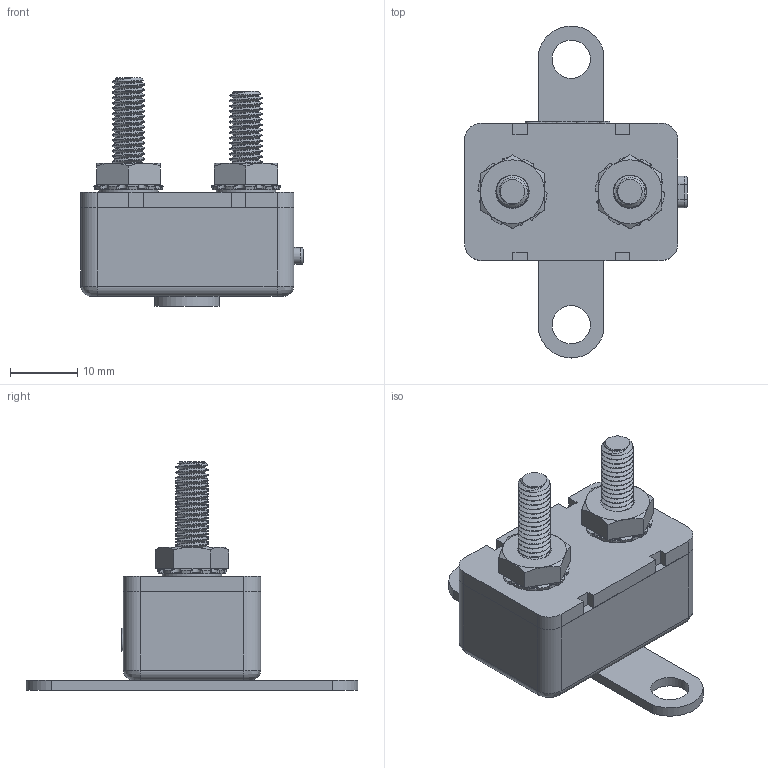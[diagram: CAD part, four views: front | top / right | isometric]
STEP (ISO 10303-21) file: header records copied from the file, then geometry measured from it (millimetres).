
FILE_DESCRIPTION(/* description */ (''),/* implementation_level */ '2;1');
FILE_NAME(/* name */ 'C:\Users\Hani\Desktop\work\MRCB-24-H\MRCB-24-H.stp',/* time_stamp */ '2021-08-06T14:12:35-07:00',/* author */ ('Hani'),/* organization */ (''),/* preprocessor_version */ 'ST-DEVELOPER v17',/* originating_system */ 'Autodesk Inventor 2019',/* authorisation */ '');
FILE_SCHEMA (('AUTOMOTIVE_DESIGN { 1 0 10303 214 3 1 1 }'));
Length unit declared in the file: inch
Products named in the file (4): ACBP-V; ACBP-V_1; THREADED ROD; HEX NUT WITH TOOTH WASHER
Assembly tree (5 placements, depth 2):
  ACBP-V
    ACBP-V_1
    THREADED ROD  x2
    HEX NUT WITH TOOTH WASHER  x2
Bounding box: 33.22 x 49.53 x 34.16 mm (x, y, z)
Volume: 11659.2 mm3; surface area: 6763.2 mm2
Topology: 8 solids, 8 shells, 465 faces, 1280 edges, 848 vertices
Faces by surface type: cylinder 164, plane 134, bspline 119, cone 46, torus 2
Full cylindrical faces by diameter (mm): 3.795 x46, 3.967 x6, 4.826 x52, 5.7 x2, 6.413 x2, 8.89 x2
Entity records: 16644 total; most frequent: CARTESIAN_POINT 8762, ORIENTED_EDGE 1816, DIRECTION 1218, EDGE_CURVE 908, VERTEX_POINT 600, LINE 428, VECTOR 428, AXIS2_PLACEMENT_3D 395
